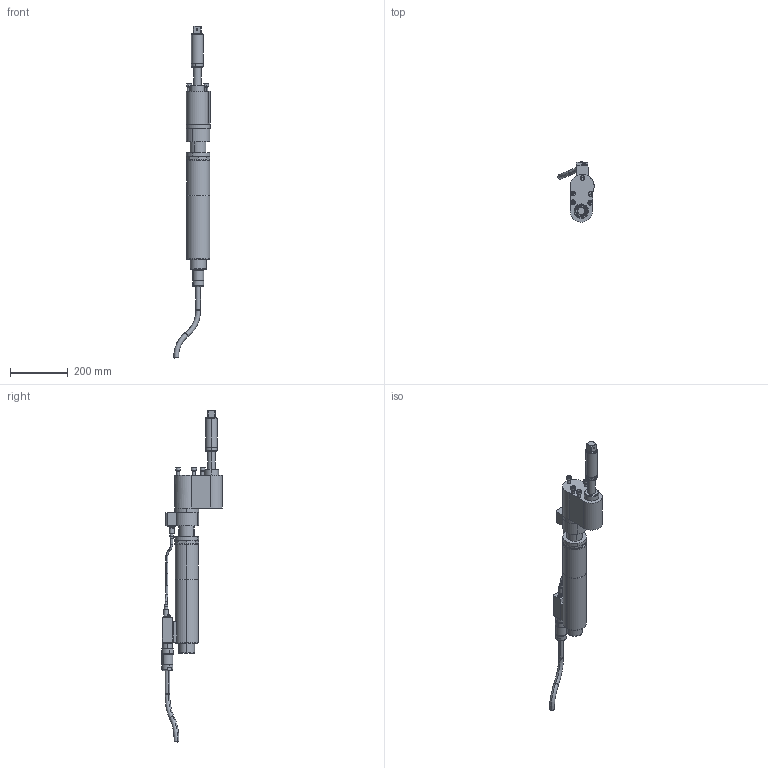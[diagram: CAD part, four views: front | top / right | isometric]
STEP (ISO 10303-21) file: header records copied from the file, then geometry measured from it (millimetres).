
FILE_DESCRIPTION(('CATIA V5 STEP'),'2;1');
FILE_NAME('O:\3D-Schrauber\stp\7920572_ECR326_DR300_AO3360_AllCATPart.stp','2010-05-05T11:13:18+00:00',('none'),('none'),'CATIA Version 5 Release 19 SP 3 (IN-10)','CATIA V5 STEP AP214','none');
FILE_SCHEMA(('AUTOMOTIVE_DESIGN { 1 0 10303 214 1 1 1 1 }'));
Length unit declared in the file: millimetre
Products named in the file (1): 7920572_ECR326_DR300_AO3360_AllCATPart
Bounding box: 125.3 x 209.91 x 1148.16 mm (x, y, z)
Volume: 4348259.1 mm3; surface area: 381691.1 mm2
Topology: 25 solids, 25 shells, 660 faces, 1540 edges, 980 vertices
Faces by surface type: cylinder 263, plane 253, cone 74, torus 66, sphere 4
Entity records: 19813 total; most frequent: CARTESIAN_POINT 5562, ORIENTED_EDGE 3068, DIRECTION 2393, EDGE_CURVE 1534, AXIS2_PLACEMENT_3D 1202, VERTEX_POINT 980, EDGE_LOOP 720, ADVANCED_FACE 660
